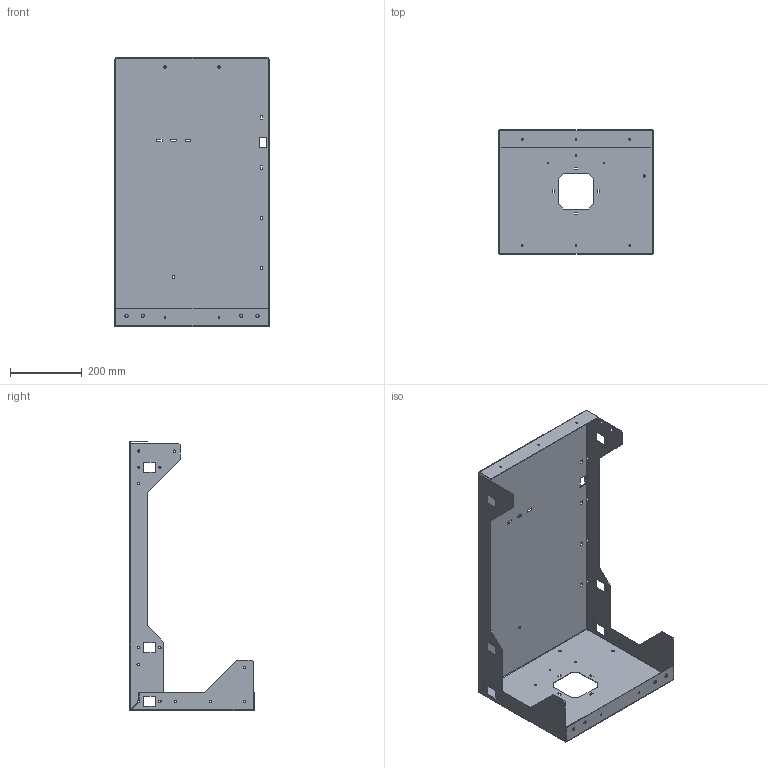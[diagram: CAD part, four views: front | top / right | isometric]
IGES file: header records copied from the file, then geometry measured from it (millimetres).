
Start section: SolidWorks IGES file using analytic representation for surfaces
Global section: file name: C:\PDF\庋.803-5-20.0.0.1.IGS,; native system: SolidWorks 2016; preprocessor: SolidWorks 2016; author: Diman; date: 210306.184723; units: millimetre
Bounding box: 430 x 346.5 x 750 mm (x, y, z)
Surface area: 1286397.3 mm2 (no closed solid volume)
Topology: 0 solids, 0 shells, 318 faces, 4848 edges, 4848 vertices
Faces by surface type: bspline 194, revolution 124
